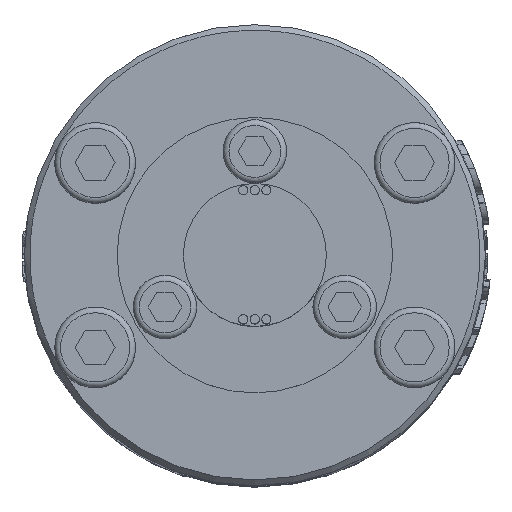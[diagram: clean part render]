
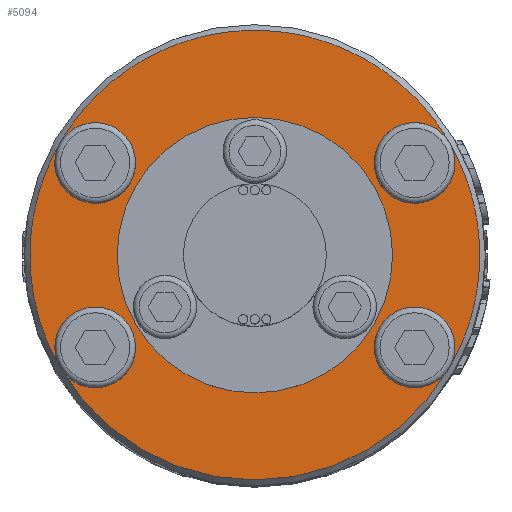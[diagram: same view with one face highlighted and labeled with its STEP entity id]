
A CAD part, top view. The second image highlights one B-rep face of the part: STEP entity #5094.
In plain terms, the highlighted planar face has unit normal (0, 0, 1).
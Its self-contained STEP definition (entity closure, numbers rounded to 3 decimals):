
#539=FACE_BOUND('',#8582,.T.);
#540=FACE_BOUND('',#8583,.T.);
#866=CIRCLE('',#25720,11.95);
#873=CIRCLE('',#25737,3.5);
#876=CIRCLE('',#25750,3.5);
#879=CIRCLE('',#25763,3.5);
#882=CIRCLE('',#25776,3.5);
#884=CIRCLE('',#25788,19.5);
#885=CIRCLE('',#25789,19.5);
#886=CIRCLE('',#25790,19.5);
#887=CIRCLE('',#25791,19.5);
#5094=ADVANCED_FACE('',(#539,#540),#5772,.T.);
#5772=PLANE('',#25795);
#8582=EDGE_LOOP('',(#15727,#15728,#15729,#15730,#15731,#15732,#15733,#15734));
#8583=EDGE_LOOP('',(#15735));
#15727=ORIENTED_EDGE('',*,*,#21801,.T.);
#15728=ORIENTED_EDGE('',*,*,#21722,.F.);
#15729=ORIENTED_EDGE('',*,*,#21800,.T.);
#15730=ORIENTED_EDGE('',*,*,#21785,.F.);
#15731=ORIENTED_EDGE('',*,*,#21799,.T.);
#15732=ORIENTED_EDGE('',*,*,#21764,.F.);
#15733=ORIENTED_EDGE('',*,*,#21802,.T.);
#15734=ORIENTED_EDGE('',*,*,#21743,.F.);
#15735=ORIENTED_EDGE('',*,*,#21709,.F.);
#18188=VERTEX_POINT('',#50399);
#18201=VERTEX_POINT('',#50435);
#18216=VERTEX_POINT('',#50481);
#18231=VERTEX_POINT('',#50527);
#18246=VERTEX_POINT('',#50573);
#21709=EDGE_CURVE('',#18188,#18188,#866,.T.);
#21722=EDGE_CURVE('',#18201,#18201,#873,.T.);
#21743=EDGE_CURVE('',#18216,#18216,#876,.T.);
#21764=EDGE_CURVE('',#18231,#18231,#879,.T.);
#21785=EDGE_CURVE('',#18246,#18246,#882,.T.);
#21799=EDGE_CURVE('',#18246,#18231,#884,.T.);
#21800=EDGE_CURVE('',#18201,#18246,#885,.T.);
#21801=EDGE_CURVE('',#18216,#18201,#886,.T.);
#21802=EDGE_CURVE('',#18231,#18216,#887,.T.);
#25720=AXIS2_PLACEMENT_3D('',#50398,#29219,#29220);
#25737=AXIS2_PLACEMENT_3D('',#50434,#29259,#29260);
#25750=AXIS2_PLACEMENT_3D('',#50480,#29303,#29304);
#25763=AXIS2_PLACEMENT_3D('',#50526,#29347,#29348);
#25776=AXIS2_PLACEMENT_3D('',#50572,#29391,#29392);
#25788=AXIS2_PLACEMENT_3D('',#50604,#29427,#29428);
#25789=AXIS2_PLACEMENT_3D('',#50605,#29429,#29430);
#25790=AXIS2_PLACEMENT_3D('',#50606,#29431,#29432);
#25791=AXIS2_PLACEMENT_3D('',#50607,#29433,#29434);
#25795=AXIS2_PLACEMENT_3D('',#50612,#29441,#29442);
#29219=DIRECTION('',(0.,0.,1.));
#29220=DIRECTION('',(0.,1.,0.));
#29259=DIRECTION('',(0.,0.,1.));
#29260=DIRECTION('',(1.,0.,0.));
#29303=DIRECTION('',(0.,0.,1.));
#29304=DIRECTION('',(1.,0.,0.));
#29347=DIRECTION('',(0.,0.,1.));
#29348=DIRECTION('',(1.,0.,0.));
#29391=DIRECTION('',(0.,0.,1.));
#29392=DIRECTION('',(1.,0.,0.));
#29427=DIRECTION('',(0.,0.,1.));
#29428=DIRECTION('',(1.,0.,0.));
#29429=DIRECTION('',(0.,0.,1.));
#29430=DIRECTION('',(1.,0.,0.));
#29431=DIRECTION('',(0.,0.,1.));
#29432=DIRECTION('',(1.,0.,0.));
#29433=DIRECTION('',(0.,0.,1.));
#29434=DIRECTION('',(1.,0.,0.));
#29441=DIRECTION('',(0.,0.,1.));
#29442=DIRECTION('',(1.,0.,0.));
#50398=CARTESIAN_POINT('',(0.,0.,94.));
#50399=CARTESIAN_POINT('',(0.,11.95,94.));
#50434=CARTESIAN_POINT('',(13.856,8.,94.));
#50435=CARTESIAN_POINT('',(16.887,9.75,94.));
#50480=CARTESIAN_POINT('',(13.856,-8.,94.));
#50481=CARTESIAN_POINT('',(16.887,-9.75,94.));
#50526=CARTESIAN_POINT('',(-13.856,-8.,94.));
#50527=CARTESIAN_POINT('',(-16.887,-9.75,94.));
#50572=CARTESIAN_POINT('',(-13.856,8.,94.));
#50573=CARTESIAN_POINT('',(-16.887,9.75,94.));
#50604=CARTESIAN_POINT('',(0.,0.,94.));
#50605=CARTESIAN_POINT('',(0.,0.,94.));
#50606=CARTESIAN_POINT('',(0.,0.,94.));
#50607=CARTESIAN_POINT('',(0.,0.,94.));
#50612=CARTESIAN_POINT('',(0.,0.,94.));
